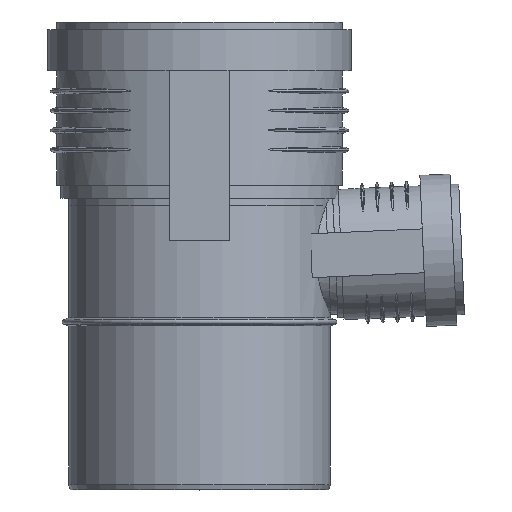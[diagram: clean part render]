
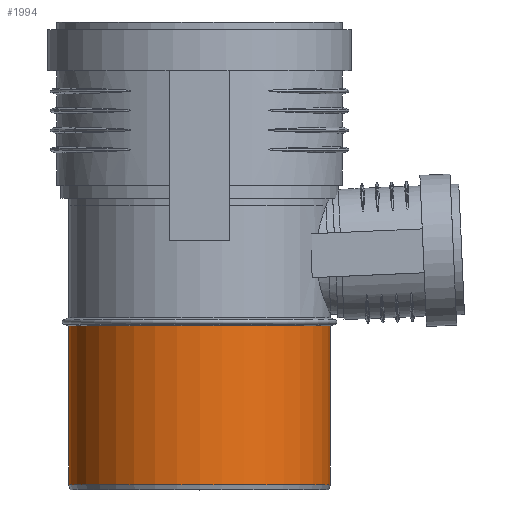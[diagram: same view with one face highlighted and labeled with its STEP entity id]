
A CAD part, top view. The second image highlights one B-rep face of the part: STEP entity #1994.
In plain terms, the highlighted cylindrical face has radius 55.1 mm (diameter 110.2 mm), a full revolution.
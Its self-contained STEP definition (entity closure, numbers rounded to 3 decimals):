
#259=CYLINDRICAL_SURFACE($,#2130,55.1);
#516=FACE_BOUND($,#705,.T.);
#591=FACE_OUTER_BOUND($,#704,.T.);
#704=EDGE_LOOP($,(#1457));
#705=EDGE_LOOP($,(#1458));
#886=CIRCLE($,#2128,55.1);
#888=CIRCLE($,#2131,55.1);
#984=VERTEX_POINT($,#2954);
#986=VERTEX_POINT($,#2959);
#1187=EDGE_CURVE($,#984,#984,#886,.T.);
#1189=EDGE_CURVE($,#986,#986,#888,.T.);
#1457=ORIENTED_EDGE($,*,*,#1189,.T.);
#1458=ORIENTED_EDGE($,*,*,#1187,.F.);
#1994=ADVANCED_FACE($,(#591,#516),#259,.T.);
#2128=AXIS2_PLACEMENT_3D($,#2955,#2363,#2364);
#2130=AXIS2_PLACEMENT_3D($,#2958,#2367,#2368);
#2131=AXIS2_PLACEMENT_3D($,#2960,#2369,#2370);
#2363=DIRECTION('center_axis',(0.,-1.,0.));
#2364=DIRECTION('ref_axis',(1.,0.,0.));
#2367=DIRECTION('center_axis',(0.,1.,0.));
#2368=DIRECTION('ref_axis',(1.,0.,0.));
#2369=DIRECTION('center_axis',(0.,-1.,0.));
#2370=DIRECTION('ref_axis',(1.,0.,0.));
#2954=CARTESIAN_POINT('',(-55.1,2.,0.));
#2955=CARTESIAN_POINT('Origin',(0.,2.,0.));
#2958=CARTESIAN_POINT('Origin',(0.,0.,0.));
#2959=CARTESIAN_POINT('',(-55.1,69.1,0.));
#2960=CARTESIAN_POINT('Origin',(0.,69.1,0.));
